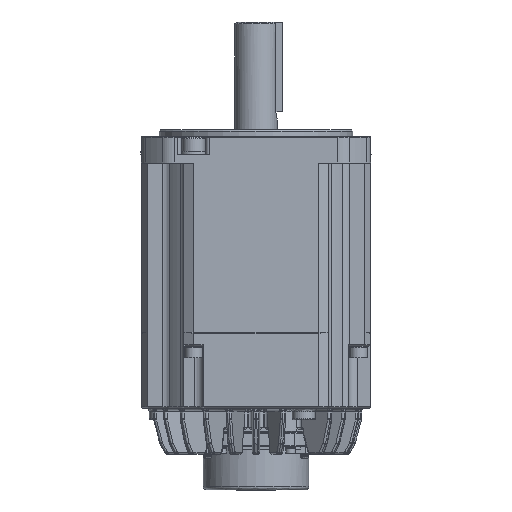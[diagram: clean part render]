
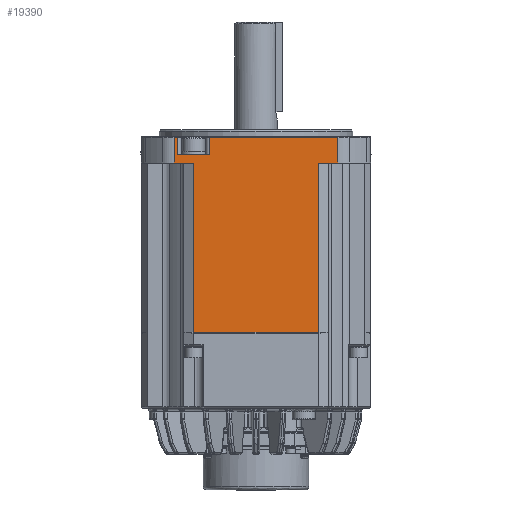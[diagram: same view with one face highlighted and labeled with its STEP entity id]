
A CAD part, front view. The second image highlights one B-rep face of the part: STEP entity #19390.
In plain terms, the highlighted planar face has unit normal (0, -1, 0).
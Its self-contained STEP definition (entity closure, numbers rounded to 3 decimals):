
#1063 = ORIENTED_EDGE ( 'NONE', *, *, #22487, .T. ) ;
#1628 = VECTOR ( 'NONE', #4467, 1000. ) ;
#2835 = LINE ( 'NONE', #102218, #89644 ) ;
#3794 = DIRECTION ( 'NONE',  ( -1., 0., 0. ) ) ;
#4467 = DIRECTION ( 'NONE',  ( -1., 0., 0. ) ) ;
#6802 = ORIENTED_EDGE ( 'NONE', *, *, #96678, .T. ) ;
#8371 = VERTEX_POINT ( 'NONE', #85990 ) ;
#8747 = LINE ( 'NONE', #28575, #36352 ) ;
#10126 = LINE ( 'NONE', #137481, #72922 ) ;
#13099 = ORIENTED_EDGE ( 'NONE', *, *, #24726, .T. ) ;
#15049 = ORIENTED_EDGE ( 'NONE', *, *, #31640, .T. ) ;
#16748 = DIRECTION ( 'NONE',  ( 1., 0., 0. ) ) ;
#18118 = DIRECTION ( 'NONE',  ( -1., 0., 0. ) ) ;
#19390 = ADVANCED_FACE ( 'NONE', ( #129462 ), #66758, .T. ) ;
#20770 = EDGE_CURVE ( 'NONE', #114405, #111863, #92120, .T. ) ;
#21527 = CARTESIAN_POINT ( 'NONE',  ( 107.24, 89.895, 177.107 ) ) ;
#21774 = ORIENTED_EDGE ( 'NONE', *, *, #108601, .T. ) ;
#22060 = CARTESIAN_POINT ( 'NONE',  ( 189.206, 89.895, 182.107 ) ) ;
#22371 = VERTEX_POINT ( 'NONE', #106739 ) ;
#22487 = EDGE_CURVE ( 'NONE', #8371, #22371, #8747, .T. ) ;
#23929 = DIRECTION ( 'NONE',  ( 1., 0., 0. ) ) ;
#24354 = AXIS2_PLACEMENT_3D ( 'NONE', #102434, #31609, #114328 ) ;
#24400 = LINE ( 'NONE', #88869, #87228 ) ;
#24558 = VERTEX_POINT ( 'NONE', #21527 ) ;
#24726 = EDGE_CURVE ( 'NONE', #22371, #93871, #61865, .T. ) ;
#24843 = CARTESIAN_POINT ( 'NONE',  ( 200.17, 89.895, 177.107 ) ) ;
#28575 = CARTESIAN_POINT ( 'NONE',  ( 189.206, 89.895, 81.107 ) ) ;
#30082 = VERTEX_POINT ( 'NONE', #124768 ) ;
#31609 = DIRECTION ( 'NONE',  ( 0., -1., 0. ) ) ;
#31640 = EDGE_CURVE ( 'NONE', #104447, #65485, #24400, .T. ) ;
#32308 = CARTESIAN_POINT ( 'NONE',  ( 200.17, 89.895, 191.807 ) ) ;
#33393 = CARTESIAN_POINT ( 'NONE',  ( 127.205, 89.895, 81.107 ) ) ;
#35879 = CARTESIAN_POINT ( 'NONE',  ( 189.206, 89.895, 81.107 ) ) ;
#36352 = VECTOR ( 'NONE', #16748, 1000. ) ;
#41829 = VECTOR ( 'NONE', #44536, 1000. ) ;
#44281 = DIRECTION ( 'NONE',  ( 0., 0., -1. ) ) ;
#44536 = DIRECTION ( 'NONE',  ( 0., 0., 1. ) ) ;
#48743 = VECTOR ( 'NONE', #23929, 1000. ) ;
#49298 = LINE ( 'NONE', #103531, #41829 ) ;
#53939 = EDGE_CURVE ( 'NONE', #97332, #8371, #102143, .T. ) ;
#55355 = VERTEX_POINT ( 'NONE', #79328 ) ;
#55736 = LINE ( 'NONE', #78020, #79722 ) ;
#55905 = EDGE_CURVE ( 'NONE', #24558, #97332, #93804, .T. ) ;
#56205 = CARTESIAN_POINT ( 'NONE',  ( 118.205, 89.895, 81.107 ) ) ;
#56958 = EDGE_CURVE ( 'NONE', #30082, #63005, #121445, .T. ) ;
#59137 = DIRECTION ( 'NONE',  ( 1., 0., 0. ) ) ;
#60067 = EDGE_CURVE ( 'NONE', #55355, #132822, #143220, .T. ) ;
#60370 = EDGE_CURVE ( 'NONE', #149373, #30082, #126716, .T. ) ;
#61865 = LINE ( 'NONE', #130077, #149016 ) ;
#63005 = VERTEX_POINT ( 'NONE', #139919 ) ;
#64179 = ORIENTED_EDGE ( 'NONE', *, *, #60067, .T. ) ;
#65485 = VERTEX_POINT ( 'NONE', #121972 ) ;
#66528 = DIRECTION ( 'NONE',  ( 0., 0., -1. ) ) ;
#66535 = DIRECTION ( 'NONE',  ( 0., 0., 1. ) ) ;
#66758 = PLANE ( 'NONE',  #24354 ) ;
#68050 = CARTESIAN_POINT ( 'NONE',  ( 116.416, 89.895, 182.107 ) ) ;
#70668 = VECTOR ( 'NONE', #44281, 1000. ) ;
#71947 = CARTESIAN_POINT ( 'NONE',  ( 109.205, 89.895, 182.107 ) ) ;
#72922 = VECTOR ( 'NONE', #66528, 1000. ) ;
#73172 = DIRECTION ( 'NONE',  ( -1., 0., 0. ) ) ;
#75192 = CARTESIAN_POINT ( 'NONE',  ( 189.206, 89.895, 182.107 ) ) ;
#75790 = ORIENTED_EDGE ( 'NONE', *, *, #140600, .T. ) ;
#78020 = CARTESIAN_POINT ( 'NONE',  ( 109.205, 89.895, 81.107 ) ) ;
#79328 = CARTESIAN_POINT ( 'NONE',  ( 189.206, 89.895, 177.107 ) ) ;
#79722 = VECTOR ( 'NONE', #89881, 1000. ) ;
#80888 = ORIENTED_EDGE ( 'NONE', *, *, #153437, .T. ) ;
#85056 = DIRECTION ( 'NONE',  ( 1., 0., 0. ) ) ;
#85300 = CARTESIAN_POINT ( 'NONE',  ( 119.994, 89.895, 182.107 ) ) ;
#85990 = CARTESIAN_POINT ( 'NONE',  ( 118.205, 89.895, 81.107 ) ) ;
#87228 = VECTOR ( 'NONE', #18118, 1000. ) ;
#88869 = CARTESIAN_POINT ( 'NONE',  ( 189.206, 89.895, 191.807 ) ) ;
#89644 = VECTOR ( 'NONE', #66535, 1000. ) ;
#89881 = DIRECTION ( 'NONE',  ( 0., 0., 1. ) ) ;
#89921 = VECTOR ( 'NONE', #116132, 1000. ) ;
#92120 = LINE ( 'NONE', #75192, #1628 ) ;
#93804 = LINE ( 'NONE', #100091, #125325 ) ;
#93871 = VERTEX_POINT ( 'NONE', #35879 ) ;
#96678 = EDGE_CURVE ( 'NONE', #132822, #149373, #49298, .T. ) ;
#96907 = CARTESIAN_POINT ( 'NONE',  ( 189.206, 89.895, 182.107 ) ) ;
#97332 = VERTEX_POINT ( 'NONE', #129707 ) ;
#100075 = ORIENTED_EDGE ( 'NONE', *, *, #115580, .T. ) ;
#100091 = CARTESIAN_POINT ( 'NONE',  ( 189.206, 89.895, 177.107 ) ) ;
#102143 = LINE ( 'NONE', #56205, #70668 ) ;
#102218 = CARTESIAN_POINT ( 'NONE',  ( 189.206, 89.895, 81.107 ) ) ;
#102434 = CARTESIAN_POINT ( 'NONE',  ( 189.206, 89.895, 81.107 ) ) ;
#102814 = ORIENTED_EDGE ( 'NONE', *, *, #56958, .T. ) ;
#103531 = CARTESIAN_POINT ( 'NONE',  ( 200.17, 89.895, 81.107 ) ) ;
#104447 = VERTEX_POINT ( 'NONE', #117586 ) ;
#104785 = DIRECTION ( 'NONE',  ( -1., 0., 0. ) ) ;
#105752 = EDGE_LOOP ( 'NONE', ( #80888, #127118, #127454, #1063, #13099, #100075, #64179, #6802, #126638, #102814, #111703, #142202, #75790, #21774, #15049 ) ) ;
#106739 = CARTESIAN_POINT ( 'NONE',  ( 153.705, 89.895, 81.107 ) ) ;
#108601 = EDGE_CURVE ( 'NONE', #147813, #104447, #55736, .T. ) ;
#111703 = ORIENTED_EDGE ( 'NONE', *, *, #115330, .T. ) ;
#111863 = VERTEX_POINT ( 'NONE', #68050 ) ;
#111933 = LINE ( 'NONE', #22060, #143524 ) ;
#114328 = DIRECTION ( 'NONE',  ( 0., 0., -1. ) ) ;
#114405 = VERTEX_POINT ( 'NONE', #85300 ) ;
#115330 = EDGE_CURVE ( 'NONE', #63005, #114405, #111933, .T. ) ;
#115580 = EDGE_CURVE ( 'NONE', #93871, #55355, #2835, .T. ) ;
#116132 = DIRECTION ( 'NONE',  ( 0., 0., -1. ) ) ;
#117586 = CARTESIAN_POINT ( 'NONE',  ( 109.205, 89.895, 191.807 ) ) ;
#121445 = LINE ( 'NONE', #33393, #89921 ) ;
#121972 = CARTESIAN_POINT ( 'NONE',  ( 107.24, 89.895, 191.807 ) ) ;
#122959 = VECTOR ( 'NONE', #3794, 1000. ) ;
#124768 = CARTESIAN_POINT ( 'NONE',  ( 127.205, 89.895, 191.807 ) ) ;
#125325 = VECTOR ( 'NONE', #85056, 1000. ) ;
#126638 = ORIENTED_EDGE ( 'NONE', *, *, #60370, .T. ) ;
#126716 = LINE ( 'NONE', #147024, #122959 ) ;
#127118 = ORIENTED_EDGE ( 'NONE', *, *, #55905, .T. ) ;
#127454 = ORIENTED_EDGE ( 'NONE', *, *, #53939, .T. ) ;
#129462 = FACE_OUTER_BOUND ( 'NONE', #105752, .T. ) ;
#129707 = CARTESIAN_POINT ( 'NONE',  ( 118.205, 89.895, 177.107 ) ) ;
#130077 = CARTESIAN_POINT ( 'NONE',  ( 189.206, 89.895, 81.107 ) ) ;
#131943 = VECTOR ( 'NONE', #73172, 1000. ) ;
#132822 = VERTEX_POINT ( 'NONE', #24843 ) ;
#135673 = LINE ( 'NONE', #96907, #131943 ) ;
#137481 = CARTESIAN_POINT ( 'NONE',  ( 107.24, 89.895, 81.107 ) ) ;
#139919 = CARTESIAN_POINT ( 'NONE',  ( 127.205, 89.895, 182.107 ) ) ;
#140600 = EDGE_CURVE ( 'NONE', #111863, #147813, #135673, .T. ) ;
#141912 = CARTESIAN_POINT ( 'NONE',  ( 189.206, 89.895, 177.107 ) ) ;
#142202 = ORIENTED_EDGE ( 'NONE', *, *, #20770, .T. ) ;
#143220 = LINE ( 'NONE', #141912, #48743 ) ;
#143524 = VECTOR ( 'NONE', #104785, 1000. ) ;
#147024 = CARTESIAN_POINT ( 'NONE',  ( 189.206, 89.895, 191.807 ) ) ;
#147813 = VERTEX_POINT ( 'NONE', #71947 ) ;
#149016 = VECTOR ( 'NONE', #59137, 1000. ) ;
#149373 = VERTEX_POINT ( 'NONE', #32308 ) ;
#153437 = EDGE_CURVE ( 'NONE', #65485, #24558, #10126, .T. ) ;
